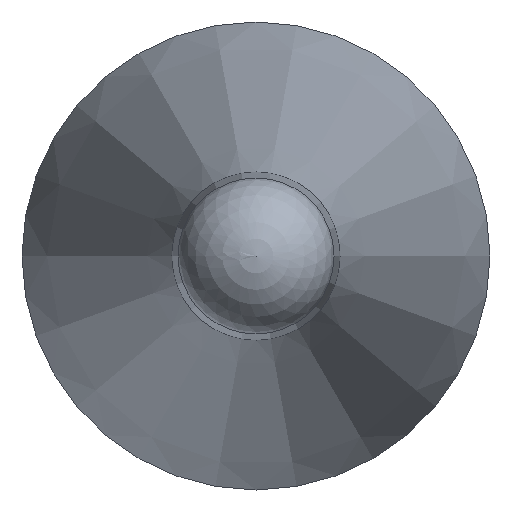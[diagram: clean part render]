
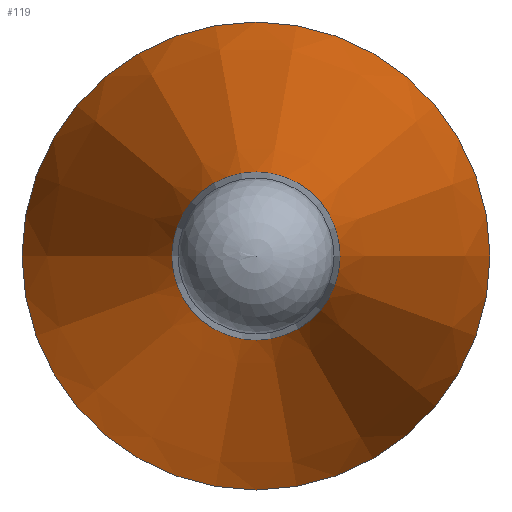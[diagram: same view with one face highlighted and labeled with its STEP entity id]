
A CAD part, left-side view. The second image highlights one B-rep face of the part: STEP entity #119.
In plain terms, the highlighted conical face has half-angle 12 degrees and reference radius 3 mm.
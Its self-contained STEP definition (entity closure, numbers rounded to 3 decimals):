
#97=CONICAL_SURFACE('',#194,3.,12.);
#106=FACE_BOUND('',#134,.T.);
#107=FACE_BOUND('',#135,.T.);
#119=ADVANCED_FACE('',(#106,#107),#97,.T.);
#134=EDGE_LOOP('',(#150));
#135=EDGE_LOOP('',(#151));
#150=ORIENTED_EDGE('',*,*,#172,.F.);
#151=ORIENTED_EDGE('',*,*,#173,.T.);
#164=VERTEX_POINT('',#249);
#165=VERTEX_POINT('',#252);
#172=EDGE_CURVE('',#164,#164,#180,.T.);
#173=EDGE_CURVE('',#165,#165,#181,.T.);
#180=CIRCLE('',#191,1.078);
#181=CIRCLE('',#193,3.);
#191=AXIS2_PLACEMENT_3D('',#248,#215,#216);
#193=AXIS2_PLACEMENT_3D('',#251,#219,#220);
#194=AXIS2_PLACEMENT_3D('',#253,#221,#222);
#215=DIRECTION('',(-1.,0.,0.));
#216=DIRECTION('',(0.,-1.,0.));
#219=DIRECTION('',(-1.,0.,0.));
#220=DIRECTION('',(0.,-1.,0.));
#221=DIRECTION('',(1.,0.,0.));
#222=DIRECTION('',(0.,1.,0.));
#248=CARTESIAN_POINT('',(7913.912,6103.288,0.));
#249=CARTESIAN_POINT('',(7913.912,6102.21,0.));
#251=CARTESIAN_POINT('',(7922.955,6103.288,0.));
#252=CARTESIAN_POINT('',(7922.955,6100.288,0.));
#253=CARTESIAN_POINT('',(7922.955,6103.288,0.));
